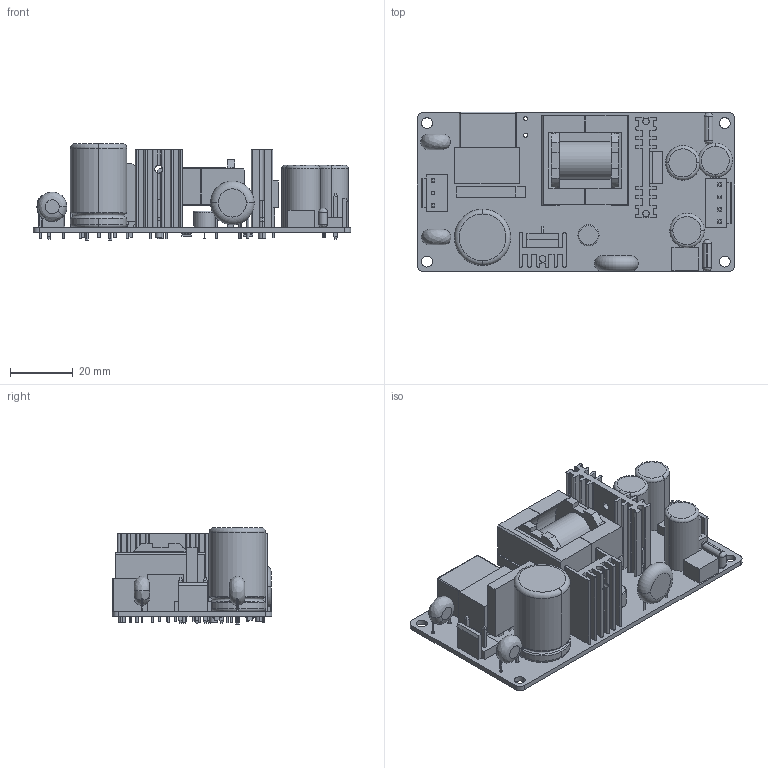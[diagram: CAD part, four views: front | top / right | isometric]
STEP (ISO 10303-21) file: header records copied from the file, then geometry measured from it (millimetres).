
FILE_DESCRIPTION((''),'2;1');
FILE_NAME('PS-60-C5III_ASM','2022-08-18T18:00:25',('pd070'),(''),'CREO PARAMETRIC BY PTC INC, 2017260','CREO PARAMETRIC BY PTC INC, 2017260','');
FILE_SCHEMA(('CONFIG_CONTROL_DESIGN','SHAPE_APPEARANCE_LAYERS_GROUPS'));
Length unit declared in the file: millimetre
Products named in the file (1): PS-60-C5III_ASM
Bounding box: 101.6 x 51.01 x 31 mm (x, y, z)
Surface area: 33523.7 mm2 (no closed solid volume)
Topology: 0 solids, 41 shells, 834 faces, 2433 edges, 1650 vertices
Faces by surface type: plane 571, cylinder 216, torus 22, bspline 12, cone 11, sphere 2
Entity records: 31893 total; most frequent: CARTESIAN_POINT 5702, DIRECTION 4670, ORIENTED_EDGE 4228, EDGE_CURVE 2433, VECTOR 1766, LINE 1766, VERTEX_POINT 1650, AXIS2_PLACEMENT_3D 1452
